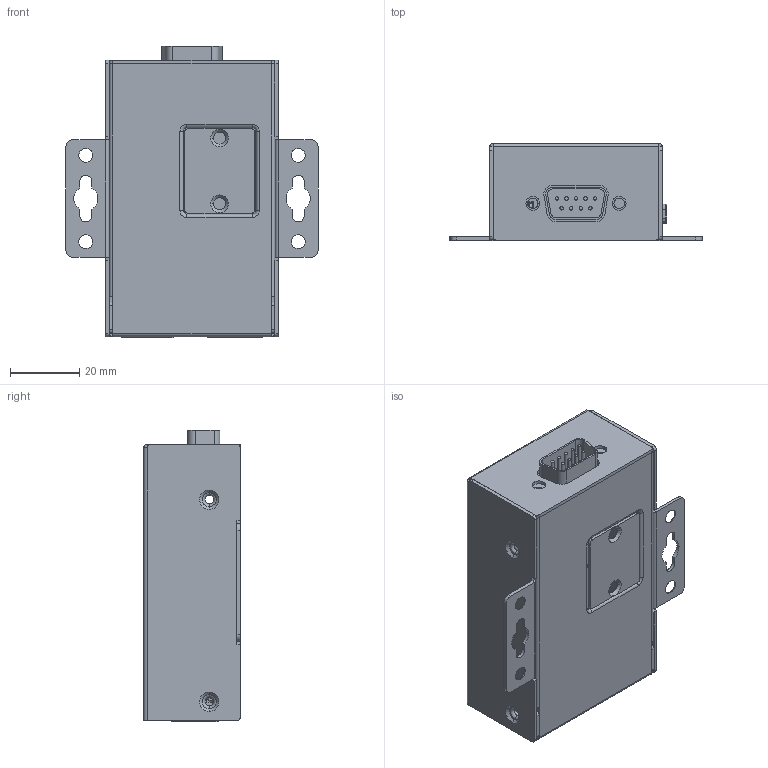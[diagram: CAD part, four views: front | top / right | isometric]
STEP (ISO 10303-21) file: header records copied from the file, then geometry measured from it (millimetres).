
FILE_DESCRIPTION((''),'2;1');
FILE_NAME('00_UC210X_ASSY_ASM','2018-02-07T',('BensonYC_Lee'),('PTC'),'PRO/ENGINEER BY PARAMETRIC TECHNOLOGY CORPORATION, 2012360','PRO/ENGINEER BY PARAMETRIC TECHNOLOGY CORPORATION, 2012360','');
FILE_SCHEMA(('AUTOMOTIVE_DESIGN { 1 0 10303 214 1 1 1 1 }'));
Length unit declared in the file: millimetre
Products named in the file (67): UC2101_BOT_COVER_AF0; UC2101_TOP_COVER_AF0; UC7201_IO_PCB_AF0; 1126411111215_RJ45_AF0; 1126400091224_DB9M-THIN_AF0; 1111000002200_5EHDR-03P_TB; 1109000021100_TAC-32; 1109040040110_DIP_SWITCH_AF0; FH_EXTENDED-HEIGHT_W-PEGS_1_AF0; CONT_FEMALE_SMT_EH_2_AF0; CONT_FEMALE_SMT_EH_2_AF1; CONT_FEMALE_SMT_EH_2_AF2; CONT_FEMALE_SMT_EH_2_AF3; CONT_FEMALE_SMT_EH_2_AF4; CONT_FEMALE_SMT_EH_2_AF5; CONT_FEMALE_SMT_EH_2_AF6; CONT_FEMALE_SMT_EH_2_AF7; CONT_FEMALE_SMT_EH_2_AF8; CONT_FEMALE_SMT_EH_2_AF9; CONT_FEMALE_SMT_EH_2_AF10; CONT_FEMALE_SMT_EH_2_AF11; CONT_FEMALE_SMT_EH_2_AF12; CONT_FEMALE_SMT_EH_2_AF13; CONT_FEMALE_SMT_EH_2_AF14; CONT_FEMALE_SMT_EH_2_AF15; CONT_FEMALE_SMT_EH_2_AF16; CONT_FEMALE_SMT_EH_2_AF17; CONT_FEMALE_SMT_EH_2_AF18; CONT_FEMALE_SMT_EH_2_AF19; CONT_FEMALE_SMT_EH_2_AF20; CONT_FEMALE_SMT_EH_2_AF21; CONT_FEMALE_SMT_EH_2_AF22; CONT_FEMALE_SMT_EH_2_AF23; CONT_FEMALE_SMT_EH_2_AF24; CONT_FEMALE_SMT_EH_2_AF25; CONT_FEMALE_SMT_EH_2_AF26; CONT_FEMALE_SMT_EH_2_AF27; CONT_FEMALE_SMT_EH_2_AF28; CONT_FEMALE_SMT_EH_2_AF29; CONT_FEMALE_SMT_EH_2_AF30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
Assembly tree (66 placements, depth 7):
  00_UC210X_ASSY_ASM
    UC2101_BOT_COVER_AF0
    UC2101_TOP_COVER_AF0
    UC720X_PCBA_ASSY_AF0_ASM
      UC7201_IO_PCBA_ASSY_AF0_ASM
        UC7201_IO_PCB_AF0
        1126411111215_RJ45_AF0
        1126400091224_DB9M-THIN_AF0
        1111000002200_5EHDR-03P_TB
        1109000021100_TAC-32
        1109040040110_DIP_SWITCH_AF0
        109454_AF0_ASM
          B2B_FEMALE_SMT_EXTENDED-HEI_AF0_ASM
            FH_EXTENDED-HEIGHT_W-PEGS_1_AF0
            CONT_FEMALE_SMT_EH_2_AF0
            CONT_FEMALE_SMT_EH_2_AF1
            CONT_FEMALE_SMT_EH_2_AF2
            CONT_FEMALE_SMT_EH_2_AF3
            CONT_FEMALE_SMT_EH_2_AF4
            CONT_FEMALE_SMT_EH_2_AF5
            CONT_FEMALE_SMT_EH_2_AF6
            CONT_FEMALE_SMT_EH_2_AF7
            CONT_FEMALE_SMT_EH_2_AF8
            CONT_FEMALE_SMT_EH_2_AF9
            CONT_FEMALE_SMT_EH_2_AF10
            CONT_FEMALE_SMT_EH_2_AF11
            CONT_FEMALE_SMT_EH_2_AF12
            CONT_FEMALE_SMT_EH_2_AF13
            CONT_FEMALE_SMT_EH_2_AF14
            CONT_FEMALE_SMT_EH_2_AF15
            CONT_FEMALE_SMT_EH_2_AF16
            CONT_FEMALE_SMT_EH_2_AF17
            CONT_FEMALE_SMT_EH_2_AF18
            CONT_FEMALE_SMT_EH_2_AF19
            CONT_FEMALE_SMT_EH_2_AF20
            CONT_FEMALE_SMT_EH_2_AF21
            CONT_FEMALE_SMT_EH_2_AF22
            CONT_FEMALE_SMT_EH_2_AF23
            CONT_FEMALE_SMT_EH_2_AF24
            CONT_FEMALE_SMT_EH_2_AF25
            CONT_FEMALE_SMT_EH_2_AF26
            CONT_FEMALE_SMT_EH_2_AF27
            CONT_FEMALE_SMT_EH_2_AF28
            CONT_FEMALE_SMT_EH_2_AF29
            CONT_FEMALE_SMT_EH_2_AF30
            CONT_FEMALE_SMT_EH_2_AF31
            CONT_FEMALE_SMT_EH_2_AF32
            CONT_FEMALE_SMT_EH_2_AF33
            CONT_FEMALE_SMT_EH_2_AF34
            CONT_FEMALE_SMT_EH_2_AF35
            CONT_FEMALE_SMT_EH_2_AF36
            CONT_FEMALE_SMT_EH_2_AF37
            CONT_FEMALE_SMT_EH_2_AF38
            CONT_FEMALE_SMT_EH_2_AF39
            BRACKET_1_AF0_ASM
              MANIFOLD_SOLID_BREP_40297_AF0
              MANIFOLD_SOLID_BREP_40584_AF0
              MANIFOLD_SOLID_BREP_40871_AF0
            BRACKET_1_AF1_ASM
              MANIFOLD_SOLID_BREP_40297_AF1
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Bounding box: 73 x 28 x 84.4 mm (x, y, z)
Volume: 21516.3 mm3; surface area: 40240.5 mm2
Topology: 16 solids, 18 shells, 1422 faces, 3775 edges, 2417 vertices
Faces by surface type: plane 936, cylinder 381, cone 53, torus 30, bspline 16, sphere 6
Entity records: 59100 total; most frequent: CARTESIAN_POINT 8238, DIRECTION 7900, ORIENTED_EDGE 7522, EDGE_CURVE 3769, PRESENTATION_STYLE_ASSIGNMENT 3145, STYLED_ITEM 3145, VECTOR 2786, LINE 2786
